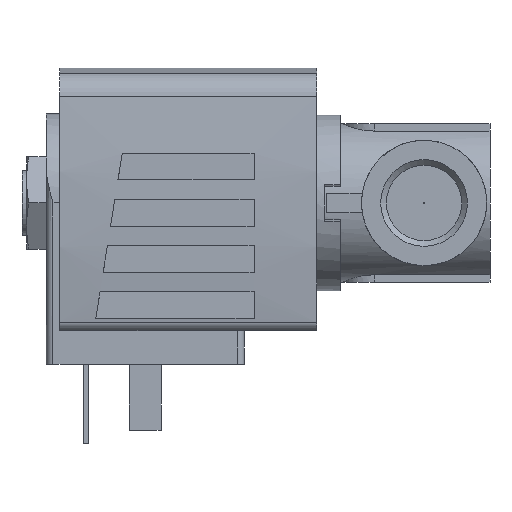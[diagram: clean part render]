
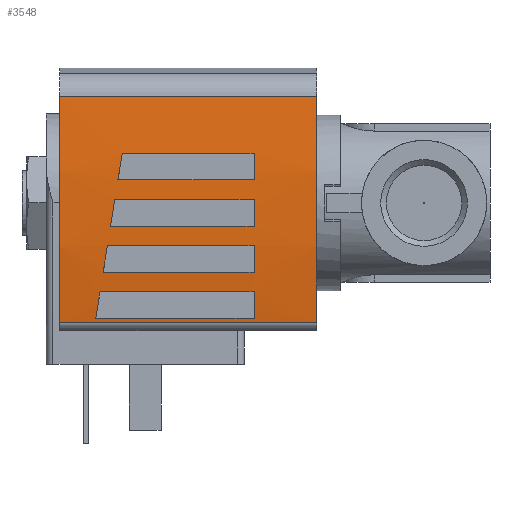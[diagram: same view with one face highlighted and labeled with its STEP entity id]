
A CAD part, left-side view. The second image highlights one B-rep face of the part: STEP entity #3548.
In plain terms, the highlighted cylindrical face has radius 130 mm (diameter 260 mm), a partial arc.
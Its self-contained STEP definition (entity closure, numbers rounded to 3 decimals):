
#55=ELLIPSE('',#3786,131.653,130.);
#56=ELLIPSE('',#3788,131.653,130.);
#57=ELLIPSE('',#3791,131.653,130.);
#58=ELLIPSE('',#3793,131.653,130.);
#286=LINE('',#5077,#501);
#288=LINE('',#5097,#503);
#289=LINE('',#5101,#504);
#290=LINE('',#5102,#505);
#291=LINE('',#5107,#506);
#292=LINE('',#5112,#507);
#293=LINE('',#5116,#508);
#294=LINE('',#5120,#509);
#295=LINE('',#5124,#510);
#296=LINE('',#5128,#511);
#501=VECTOR('',#4262,1000.);
#503=VECTOR('',#4284,1000.);
#504=VECTOR('',#4287,1000.);
#505=VECTOR('',#4288,1000.);
#506=VECTOR('',#4291,1000.);
#507=VECTOR('',#4296,1000.);
#508=VECTOR('',#4299,1000.);
#509=VECTOR('',#4302,1000.);
#510=VECTOR('',#4305,1000.);
#511=VECTOR('',#4308,1000.);
#923=ORIENTED_EDGE('',*,*,#1479,.F.);
#924=ORIENTED_EDGE('',*,*,#1480,.F.);
#925=ORIENTED_EDGE('',*,*,#1481,.F.);
#926=ORIENTED_EDGE('',*,*,#1482,.F.);
#927=ORIENTED_EDGE('',*,*,#1483,.F.);
#928=ORIENTED_EDGE('',*,*,#1484,.F.);
#929=ORIENTED_EDGE('',*,*,#1485,.F.);
#930=ORIENTED_EDGE('',*,*,#1486,.F.);
#931=ORIENTED_EDGE('',*,*,#1487,.T.);
#932=ORIENTED_EDGE('',*,*,#1488,.F.);
#933=ORIENTED_EDGE('',*,*,#1473,.F.);
#934=ORIENTED_EDGE('',*,*,#1470,.T.);
#935=ORIENTED_EDGE('',*,*,#1489,.F.);
#936=ORIENTED_EDGE('',*,*,#1490,.F.);
#937=ORIENTED_EDGE('',*,*,#1491,.F.);
#938=ORIENTED_EDGE('',*,*,#1492,.F.);
#939=ORIENTED_EDGE('',*,*,#1493,.F.);
#940=ORIENTED_EDGE('',*,*,#1494,.F.);
#941=ORIENTED_EDGE('',*,*,#1495,.F.);
#942=ORIENTED_EDGE('',*,*,#1496,.F.);
#1470=EDGE_CURVE('',#1777,#1776,#286,.T.);
#1473=EDGE_CURVE('',#1777,#1779,#1940,.T.);
#1479=EDGE_CURVE('',#1783,#1784,#55,.T.);
#1480=EDGE_CURVE('',#1785,#1783,#288,.F.);
#1481=EDGE_CURVE('',#1786,#1785,#1945,.T.);
#1482=EDGE_CURVE('',#1784,#1786,#289,.T.);
#1483=EDGE_CURVE('',#1787,#1788,#290,.T.);
#1484=EDGE_CURVE('',#1789,#1787,#56,.T.);
#1485=EDGE_CURVE('',#1790,#1789,#291,.F.);
#1486=EDGE_CURVE('',#1788,#1790,#1946,.T.);
#1487=EDGE_CURVE('',#1776,#1791,#1947,.T.);
#1488=EDGE_CURVE('',#1779,#1791,#292,.T.);
#1489=EDGE_CURVE('',#1792,#1793,#57,.T.);
#1490=EDGE_CURVE('',#1794,#1792,#293,.F.);
#1491=EDGE_CURVE('',#1795,#1794,#1948,.T.);
#1492=EDGE_CURVE('',#1793,#1795,#294,.T.);
#1493=EDGE_CURVE('',#1796,#1797,#58,.T.);
#1494=EDGE_CURVE('',#1798,#1796,#295,.F.);
#1495=EDGE_CURVE('',#1799,#1798,#1949,.T.);
#1496=EDGE_CURVE('',#1797,#1799,#296,.T.);
#1776=VERTEX_POINT('',#5076);
#1777=VERTEX_POINT('',#5078);
#1779=VERTEX_POINT('',#5084);
#1783=VERTEX_POINT('',#5095);
#1784=VERTEX_POINT('',#5096);
#1785=VERTEX_POINT('',#5098);
#1786=VERTEX_POINT('',#5100);
#1787=VERTEX_POINT('',#5103);
#1788=VERTEX_POINT('',#5104);
#1789=VERTEX_POINT('',#5106);
#1790=VERTEX_POINT('',#5108);
#1791=VERTEX_POINT('',#5111);
#1792=VERTEX_POINT('',#5114);
#1793=VERTEX_POINT('',#5115);
#1794=VERTEX_POINT('',#5117);
#1795=VERTEX_POINT('',#5119);
#1796=VERTEX_POINT('',#5122);
#1797=VERTEX_POINT('',#5123);
#1798=VERTEX_POINT('',#5125);
#1799=VERTEX_POINT('',#5127);
#1940=CIRCLE('',#3780,130.);
#1945=CIRCLE('',#3787,130.);
#1946=CIRCLE('',#3789,130.);
#1947=CIRCLE('',#3790,130.);
#1948=CIRCLE('',#3792,130.);
#1949=CIRCLE('',#3794,130.);
#2069=EDGE_LOOP('',(#923,#924,#925,#926));
#2070=EDGE_LOOP('',(#927,#928,#929,#930));
#2071=EDGE_LOOP('',(#931,#932,#933,#934));
#2072=EDGE_LOOP('',(#935,#936,#937,#938));
#2073=EDGE_LOOP('',(#939,#940,#941,#942));
#2269=FACE_BOUND('',#2069,.T.);
#2270=FACE_BOUND('',#2070,.T.);
#2271=FACE_BOUND('',#2071,.T.);
#2272=FACE_BOUND('',#2072,.T.);
#2273=FACE_BOUND('',#2073,.T.);
#2388=CYLINDRICAL_SURFACE('',#3785,130.);
#3548=ADVANCED_FACE('',(#2269,#2270,#2271,#2272,#2273),#2388,.T.);
#3780=AXIS2_PLACEMENT_3D('',#5083,#4269,#4270);
#3785=AXIS2_PLACEMENT_3D('',#5093,#4280,#4281);
#3786=AXIS2_PLACEMENT_3D('',#5094,#4282,#4283);
#3787=AXIS2_PLACEMENT_3D('',#5099,#4285,#4286);
#3788=AXIS2_PLACEMENT_3D('',#5105,#4289,#4290);
#3789=AXIS2_PLACEMENT_3D('',#5109,#4292,#4293);
#3790=AXIS2_PLACEMENT_3D('',#5110,#4294,#4295);
#3791=AXIS2_PLACEMENT_3D('',#5113,#4297,#4298);
#3792=AXIS2_PLACEMENT_3D('',#5118,#4300,#4301);
#3793=AXIS2_PLACEMENT_3D('',#5121,#4303,#4304);
#3794=AXIS2_PLACEMENT_3D('',#5126,#4306,#4307);
#4262=DIRECTION('',(0.,-1.,0.));
#4269=DIRECTION('',(0.,1.,0.));
#4270=DIRECTION('',(1.,0.,0.));
#4280=DIRECTION('',(0.,-1.,0.));
#4281=DIRECTION('',(0.,0.,-1.));
#4282=DIRECTION('',(-0.158,-0.987,0.));
#4283=DIRECTION('',(0.987,-0.158,0.));
#4284=DIRECTION('',(0.,-1.,0.));
#4285=DIRECTION('',(0.,1.,0.));
#4286=DIRECTION('',(0.,0.,1.));
#4287=DIRECTION('',(0.,-1.,0.));
#4288=DIRECTION('',(0.,-1.,0.));
#4289=DIRECTION('',(-0.158,-0.987,0.));
#4290=DIRECTION('',(0.987,-0.158,0.));
#4291=DIRECTION('',(0.,-1.,0.));
#4292=DIRECTION('',(0.,1.,0.));
#4293=DIRECTION('',(0.,0.,1.));
#4294=DIRECTION('',(0.,1.,0.));
#4295=DIRECTION('',(1.,0.,0.));
#4296=DIRECTION('',(0.,-1.,0.));
#4297=DIRECTION('',(-0.158,-0.987,0.));
#4298=DIRECTION('',(0.987,-0.158,0.));
#4299=DIRECTION('',(0.,-1.,0.));
#4300=DIRECTION('',(0.,1.,0.));
#4301=DIRECTION('',(0.,0.,1.));
#4302=DIRECTION('',(0.,-1.,0.));
#4303=DIRECTION('',(-0.158,-0.987,0.));
#4304=DIRECTION('',(0.987,-0.158,0.));
#4305=DIRECTION('',(0.,-1.,0.));
#4306=DIRECTION('',(0.,1.,0.));
#4307=DIRECTION('',(0.,0.,1.));
#4308=DIRECTION('',(0.,-1.,0.));
#5076=CARTESIAN_POINT('',(-18.071,-26.,14.738));
#5077=CARTESIAN_POINT('',(-18.071,13.,14.738));
#5078=CARTESIAN_POINT('',(-18.071,13.,14.738));
#5083=CARTESIAN_POINT('',(0.,13.,-114.));
#5084=CARTESIAN_POINT('',(16.195,13.,14.987));
#5093=CARTESIAN_POINT('',(0.,13.,-114.));
#5094=CARTESIAN_POINT('',(0.,4.7,-114.));
#5095=CARTESIAN_POINT('',(0.5,4.62,15.999));
#5096=CARTESIAN_POINT('',(-3.5,5.26,15.953));
#5097=CARTESIAN_POINT('',(0.5,13.,15.999));
#5098=CARTESIAN_POINT('',(0.5,-16.5,15.999));
#5099=CARTESIAN_POINT('',(0.,-16.5,-114.));
#5100=CARTESIAN_POINT('',(-3.5,-16.5,15.953));
#5101=CARTESIAN_POINT('',(-3.5,13.,15.953));
#5102=CARTESIAN_POINT('',(-17.5,13.,14.817));
#5103=CARTESIAN_POINT('',(-17.5,7.5,14.817));
#5104=CARTESIAN_POINT('',(-17.5,-16.5,14.817));
#5105=CARTESIAN_POINT('',(0.,4.7,-114.));
#5106=CARTESIAN_POINT('',(-13.5,6.86,15.297));
#5107=CARTESIAN_POINT('',(-13.5,13.,15.297));
#5108=CARTESIAN_POINT('',(-13.5,-16.5,15.297));
#5109=CARTESIAN_POINT('',(0.,-16.5,-114.));
#5110=CARTESIAN_POINT('',(0.,-26.,-114.));
#5111=CARTESIAN_POINT('',(16.195,-26.,14.987));
#5112=CARTESIAN_POINT('',(16.195,13.,14.987));
#5113=CARTESIAN_POINT('',(0.,4.7,-114.));
#5114=CARTESIAN_POINT('',(-6.5,5.74,15.837));
#5115=CARTESIAN_POINT('',(-10.5,6.38,15.575));
#5116=CARTESIAN_POINT('',(-6.5,13.,15.837));
#5117=CARTESIAN_POINT('',(-6.5,-16.5,15.837));
#5118=CARTESIAN_POINT('',(0.,-16.5,-114.));
#5119=CARTESIAN_POINT('',(-10.5,-16.5,15.575));
#5120=CARTESIAN_POINT('',(-10.5,13.,15.575));
#5121=CARTESIAN_POINT('',(0.,4.7,-114.));
#5122=CARTESIAN_POINT('',(7.5,3.5,15.783));
#5123=CARTESIAN_POINT('',(3.5,4.14,15.953));
#5124=CARTESIAN_POINT('',(7.5,13.,15.783));
#5125=CARTESIAN_POINT('',(7.5,-16.5,15.783));
#5126=CARTESIAN_POINT('',(0.,-16.5,-114.));
#5127=CARTESIAN_POINT('',(3.5,-16.5,15.953));
#5128=CARTESIAN_POINT('',(3.5,13.,15.953));
